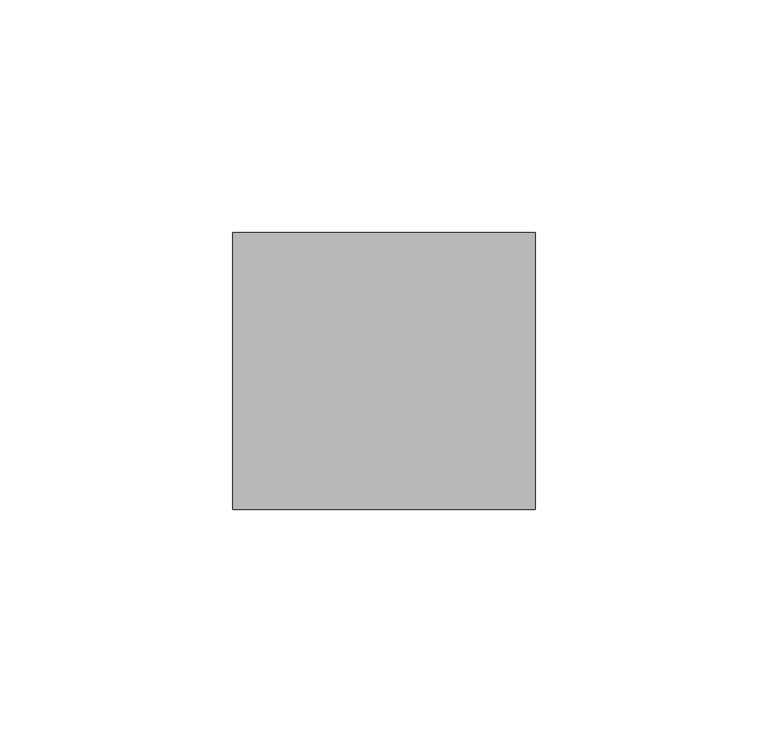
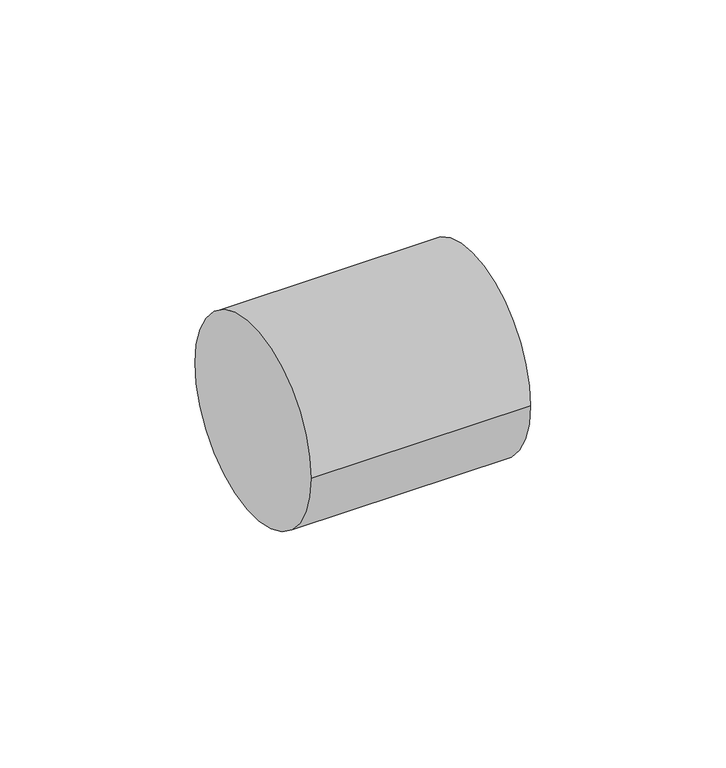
"""IFC4 building model written with IfcOpenShell, lengths in millimetres: pipe fitting geometry, 01051005 : Uniao Simples."""

from ifc_helpers import new_model, si_unit, point, frame, origin, origin_2d, place, context, project, spatial, circle_curve, trimmed, segment, composite_curve, outline, extrude, source, transform, mapped, element, save


def pipe_fitting_fb0012c8(model_context):
    return source(origin(), model_context, "Body", "SweptSolid", [
        extrude(outline(composite_curve([segment(trimmed(circle_curve(origin_2d(), 29.75), [point((-29.75, 0.0))], [point((29.75, 0.0))], False, "CARTESIAN"), True, "CONTINUOUS"), segment(trimmed(circle_curve(origin_2d(), 29.75), [point((29.75, 0.0))], [point((-29.75, 0.0))], False, "CARTESIAN"), True, "CONTINUOUS")], self_intersect=False)), frame((-32.5, 0.0, 0.0), z_axis=(1.0, 0.0, 0.0), x_axis=(0.0, 1.0, 0.0)), (0.0, 0.0, 1.0), 65.0),
    ])


if __name__ == "__main__":
    model = new_model("IFC4")
    model_context = context("Model", 3, world=origin())
    ifc_project = project(units=[si_unit("LENGTHUNIT", "METRE", prefix="MILLI")], contexts=[model_context])
    site = spatial("IfcSite", under=ifc_project)
    building = spatial("IfcBuilding", under=site)
    placement = place(None, origin())
    pipe_fitting_shape = pipe_fitting_fb0012c8(model_context)
    element("IfcPipeFitting", 1, ObjectType="01051005 : Uniao Simples", at=placement, inside=building, context=model_context, shape_type="MappedRepresentation", body=[
        mapped(pipe_fitting_shape, transform((0.0, 0.0, 0.0), x_axis=(1.0, 0.0, 0.0), y_axis=(0.0, 1.0, 0.0), z_axis=(0.0, 0.0, 1.0))),
    ])
    save(model, "model.ifc")
